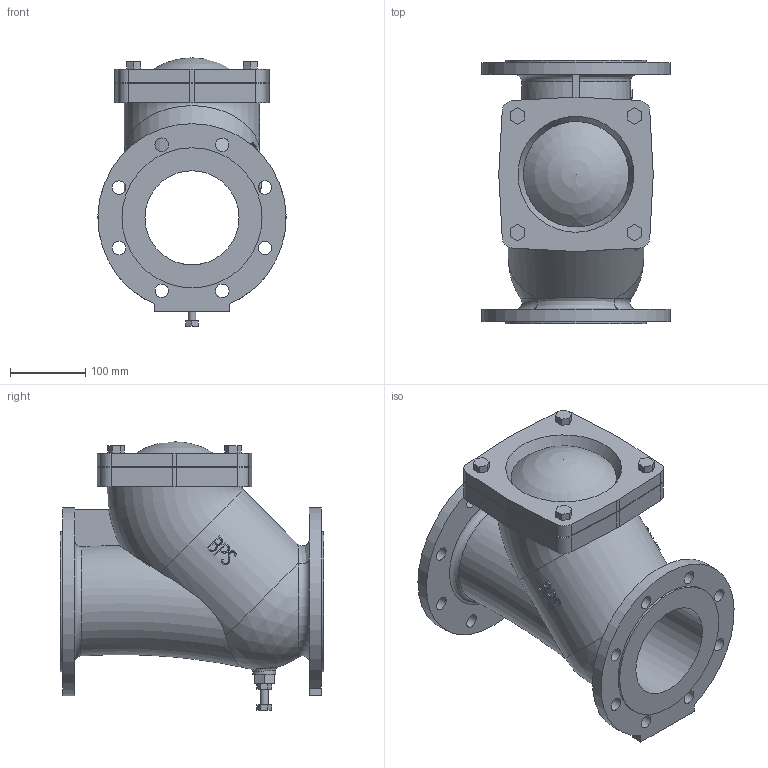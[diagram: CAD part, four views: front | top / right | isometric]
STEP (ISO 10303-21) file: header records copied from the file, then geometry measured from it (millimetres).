
FILE_DESCRIPTION( ( 'Unknown' ), '1' );
FILE_NAME( 'J:/Muud/ROOTSI BPS 3D vidinad/Kuuliga tagasiloogiklapid/STEP formaat/BPS 6538125 ball check valve DN125.stp', 'Unknown', ( 'Unknown' ), ( 'Unknown' ), 'PSStep 10.1', 'Unknown', ' ' );
FILE_SCHEMA( ( 'AUTOMOTIVE_DESIGN { 1 0 10303 214 1 1 1 1 }' ) );
Length unit declared in the file: millimetre
Products named in the file (2): 1; 2
Bounding box: 250 x 350 x 356.54 mm (x, y, z)
Volume: 7750159.1 mm3; surface area: 691330.2 mm2
Topology: 2 solids, 2 shells, 325 faces, 840 edges, 561 vertices
Faces by surface type: plane 177, cylinder 73, bspline 68, torus 4, sphere 2, cone 1
Full cylindrical faces by diameter (mm): 10 x1, 13 x8, 17.294 x1, 18 x16, 30 x1, 125 x1, 186 x2, 250 x1
Entity records: 25627 total; most frequent: CARTESIAN_POINT 16227, ORIENTED_EDGE 1554, DIRECTION 977, EDGE_CURVE 777, VERTEX_POINT 538, EDGE_LOOP 449, B_SPLINE_CURVE_WITH_KNOTS 439, AXIS2_PLACEMENT_3D 380
